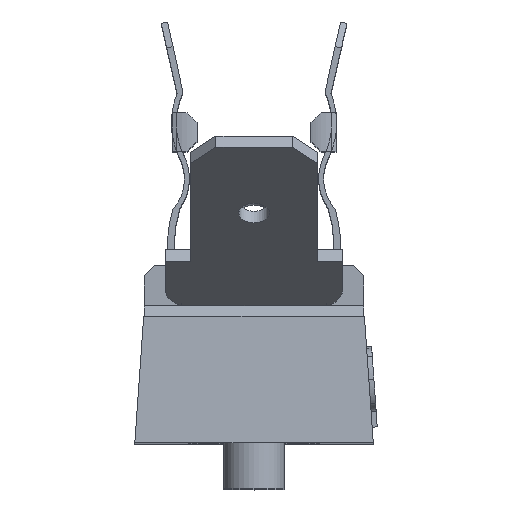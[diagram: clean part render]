
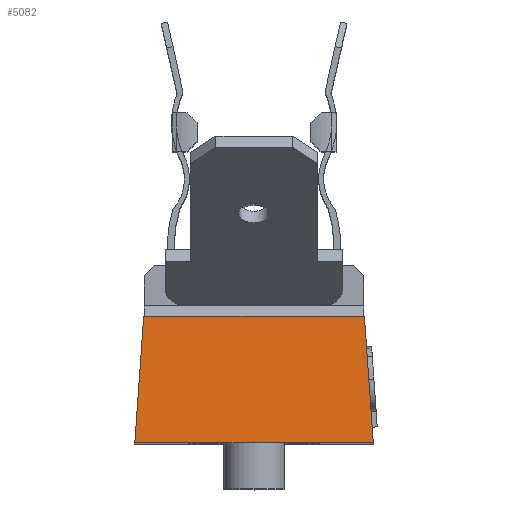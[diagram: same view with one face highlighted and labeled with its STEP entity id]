
A CAD part, top view. The second image highlights one B-rep face of the part: STEP entity #5082.
In plain terms, the highlighted planar face has unit normal (0, 0.07, 0.998).
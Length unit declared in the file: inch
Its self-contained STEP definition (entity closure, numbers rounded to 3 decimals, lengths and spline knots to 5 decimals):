
#417=PLANE('',#5433);
#664=FACE_OUTER_BOUND('',#964,.T.);
#964=EDGE_LOOP('',(#4337,#4338,#4339,#4340,#4341));
#1082=LINE('',#6814,#1576);
#1087=LINE('',#6822,#1581);
#1358=LINE('',#8731,#1852);
#1387=LINE('',#8811,#1881);
#1388=LINE('',#8813,#1882);
#1576=VECTOR('',#5651,0.3937);
#1581=VECTOR('',#5656,0.3937);
#1852=VECTOR('',#6101,0.3937);
#1881=VECTOR('',#6180,0.3937);
#1882=VECTOR('',#6183,0.3937);
#2167=VERTEX_POINT('',#6812);
#2168=VERTEX_POINT('',#6813);
#2171=VERTEX_POINT('',#6820);
#2450=VERTEX_POINT('',#8728);
#2464=VERTEX_POINT('',#8768);
#2655=EDGE_CURVE('',#2167,#2168,#1082,.T.);
#2660=EDGE_CURVE('',#2168,#2171,#1087,.T.);
#3073=EDGE_CURVE('',#2171,#2450,#1358,.T.);
#3114=EDGE_CURVE('',#2167,#2464,#1387,.T.);
#3115=EDGE_CURVE('',#2464,#2450,#1388,.T.);
#4337=ORIENTED_EDGE('',*,*,#3115,.F.);
#4338=ORIENTED_EDGE('',*,*,#3114,.F.);
#4339=ORIENTED_EDGE('',*,*,#2655,.T.);
#4340=ORIENTED_EDGE('',*,*,#2660,.T.);
#4341=ORIENTED_EDGE('',*,*,#3073,.T.);
#5082=ADVANCED_FACE('',(#664),#417,.T.);
#5433=AXIS2_PLACEMENT_3D('',#8840,#6220,#6221);
#5651=DIRECTION('',(1.,0.,0.));
#5656=DIRECTION('',(1.,0.,0.));
#6101=DIRECTION('',(-0.07,0.995,-0.07));
#6180=DIRECTION('',(0.07,0.995,-0.07));
#6183=DIRECTION('',(1.,0.,0.));
#6220=DIRECTION('center_axis',(0.,0.07,0.998));
#6221=DIRECTION('ref_axis',(1.,0.,0.));
#6812=CARTESIAN_POINT('',(-0.235,0.,0.825));
#6813=CARTESIAN_POINT('',(0.,0.,0.825));
#6814=CARTESIAN_POINT('',(-0.235,0.,0.825));
#6820=CARTESIAN_POINT('',(0.235,0.,0.825));
#6822=CARTESIAN_POINT('',(-0.235,0.,0.825));
#8728=CARTESIAN_POINT('',(0.21751,0.25005,0.80751));
#8731=CARTESIAN_POINT('',(0.23101,0.05713,0.82101));
#8768=CARTESIAN_POINT('',(-0.21751,0.25005,0.80751));
#8811=CARTESIAN_POINT('',(-0.23386,0.01627,0.82386));
#8813=CARTESIAN_POINT('',(0.1175,0.25005,0.80751));
#8840=CARTESIAN_POINT('Origin',(0.235,0.,0.825));
